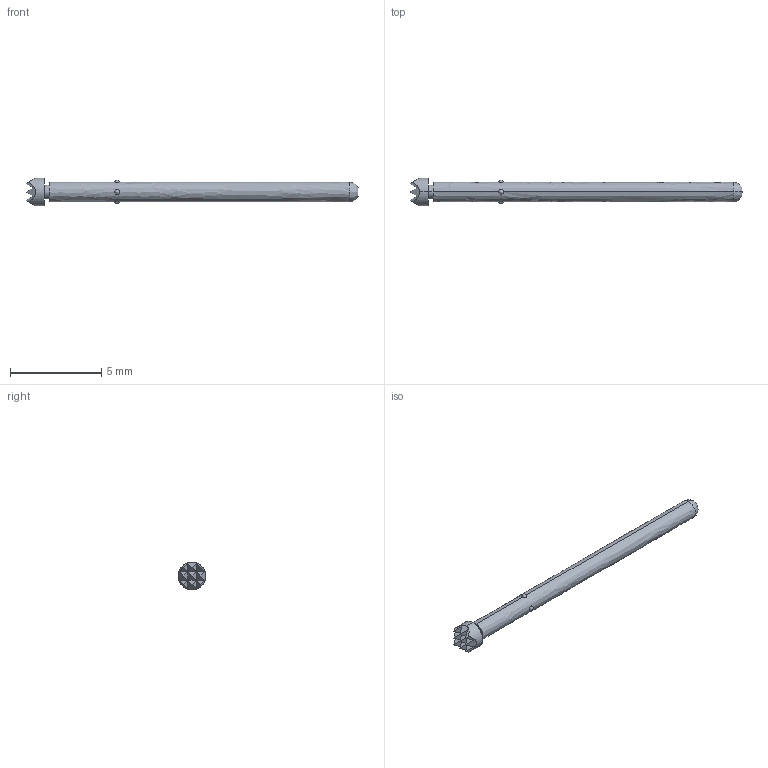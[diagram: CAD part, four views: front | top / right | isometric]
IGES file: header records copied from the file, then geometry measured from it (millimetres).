
Start section: SolidWorks IGES file using analytic representation for surfaces
Global section: file name: O:\PYLON\IGES FILES\P2663\P2663G-1W1S FULL.IGS; native system: SolidWorks 2015; preprocessor: SolidWorks 2015; author: kgolden; date: 171019.105805; units: inch
Bounding box: 18.24 x 1.52 x 1.52 mm (x, y, z)
Surface area: 70.9 mm2 (no closed solid volume)
Topology: 0 solids, 0 shells, 49 faces, 402 edges, 386 vertices
Faces by surface type: bspline 33, revolution 16
